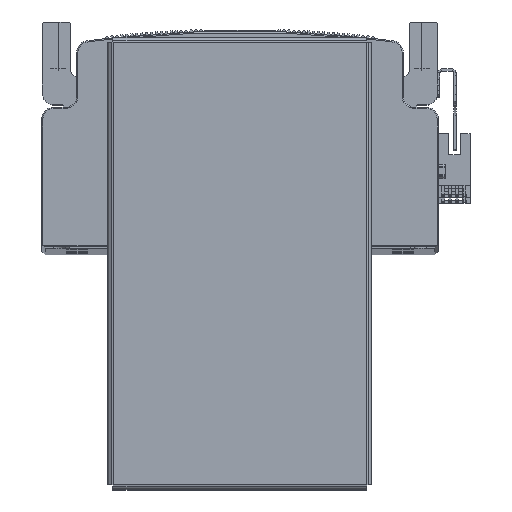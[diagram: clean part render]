
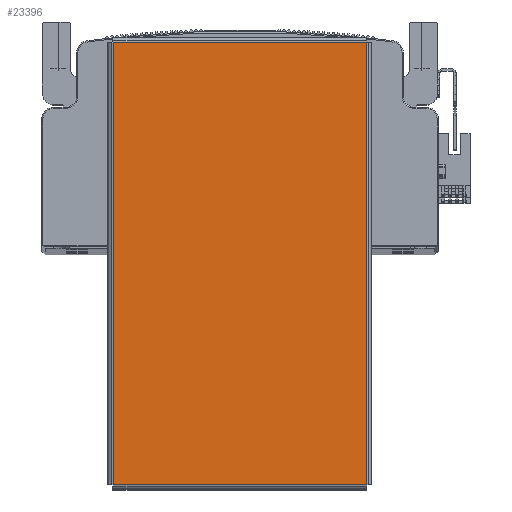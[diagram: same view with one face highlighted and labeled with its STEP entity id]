
A CAD part, top view. The second image highlights one B-rep face of the part: STEP entity #23396.
In plain terms, the highlighted planar face has unit normal (0, 0, 1) as drawn and (0, -1, 0) by its records, which use the part's own axes.
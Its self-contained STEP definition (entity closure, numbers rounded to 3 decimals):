
#1661 = PLANE ( 'NONE',  #2189 ) ;
#1663 = DIRECTION ( 'NONE',  ( 0., 1., 0. ) ) ;
#1666 = CARTESIAN_POINT ( 'NONE',  ( 0., -1.5, 0. ) ) ;
#1705 = DIRECTION ( 'NONE',  ( 0., 0., 1. ) ) ;
#2189 = AXIS2_PLACEMENT_3D ( 'NONE', #1666, #1663, #1705 ) ;
#23396 = ADVANCED_FACE ( 'NONE', ( #71795 ), #1661, .F. ) ;
#33336 = EDGE_CURVE ( 'NONE', #34664, #34741, #46011, .T. ) ;
#33349 = EDGE_CURVE ( 'NONE', #34830, #34709, #45052, .T. ) ;
#33378 = EDGE_CURVE ( 'NONE', #34741, #34830, #59248, .T. ) ;
#33382 = EDGE_CURVE ( 'NONE', #34709, #34664, #59256, .T. ) ;
#34664 = VERTEX_POINT ( 'NONE', #63637 ) ;
#34709 = VERTEX_POINT ( 'NONE', #63676 ) ;
#34741 = VERTEX_POINT ( 'NONE', #63715 ) ;
#34830 = VERTEX_POINT ( 'NONE', #63758 ) ;
#41223 = ORIENTED_EDGE ( 'NONE', *, *, #33382, .T. ) ;
#41227 = ORIENTED_EDGE ( 'NONE', *, *, #33349, .T. ) ;
#41236 = ORIENTED_EDGE ( 'NONE', *, *, #33378, .T. ) ;
#41247 = ORIENTED_EDGE ( 'NONE', *, *, #33336, .T. ) ;
#41781 = EDGE_LOOP ( 'NONE', ( #41223, #41247, #41236, #41227 ) ) ;
#45052 = LINE ( 'NONE', #58189, #45088 ) ;
#45088 = VECTOR ( 'NONE', #58259, 1000. ) ;
#45981 = VECTOR ( 'NONE', #58122, 1000. ) ;
#46011 = LINE ( 'NONE', #58047, #45981 ) ;
#58047 = CARTESIAN_POINT ( 'NONE',  ( -94.763, -1.5, 54.393 ) ) ;
#58122 = DIRECTION ( 'NONE',  ( 0., 0., -1. ) ) ;
#58189 = CARTESIAN_POINT ( 'NONE',  ( 94.763, -1.5, -54.393 ) ) ;
#58259 = DIRECTION ( 'NONE',  ( 0., 0., 1. ) ) ;
#58445 = DIRECTION ( 'NONE',  ( -1., 0., 0. ) ) ;
#58471 = CARTESIAN_POINT ( 'NONE',  ( -94.793, -1.5, -54.363 ) ) ;
#58508 = CARTESIAN_POINT ( 'NONE',  ( 94.793, -1.5, 54.363 ) ) ;
#58523 = DIRECTION ( 'NONE',  ( 1., 0., 0. ) ) ;
#59160 = VECTOR ( 'NONE', #58445, 1000. ) ;
#59210 = VECTOR ( 'NONE', #58523, 1000. ) ;
#59248 = LINE ( 'NONE', #58471, #59210 ) ;
#59256 = LINE ( 'NONE', #58508, #59160 ) ;
#63637 = CARTESIAN_POINT ( 'NONE',  ( -94.763, -1.5, 54.363 ) ) ;
#63676 = CARTESIAN_POINT ( 'NONE',  ( 94.763, -1.5, 54.363 ) ) ;
#63715 = CARTESIAN_POINT ( 'NONE',  ( -94.763, -1.5, -54.363 ) ) ;
#63758 = CARTESIAN_POINT ( 'NONE',  ( 94.763, -1.5, -54.363 ) ) ;
#71795 = FACE_OUTER_BOUND ( 'NONE', #41781, .T. ) ;
